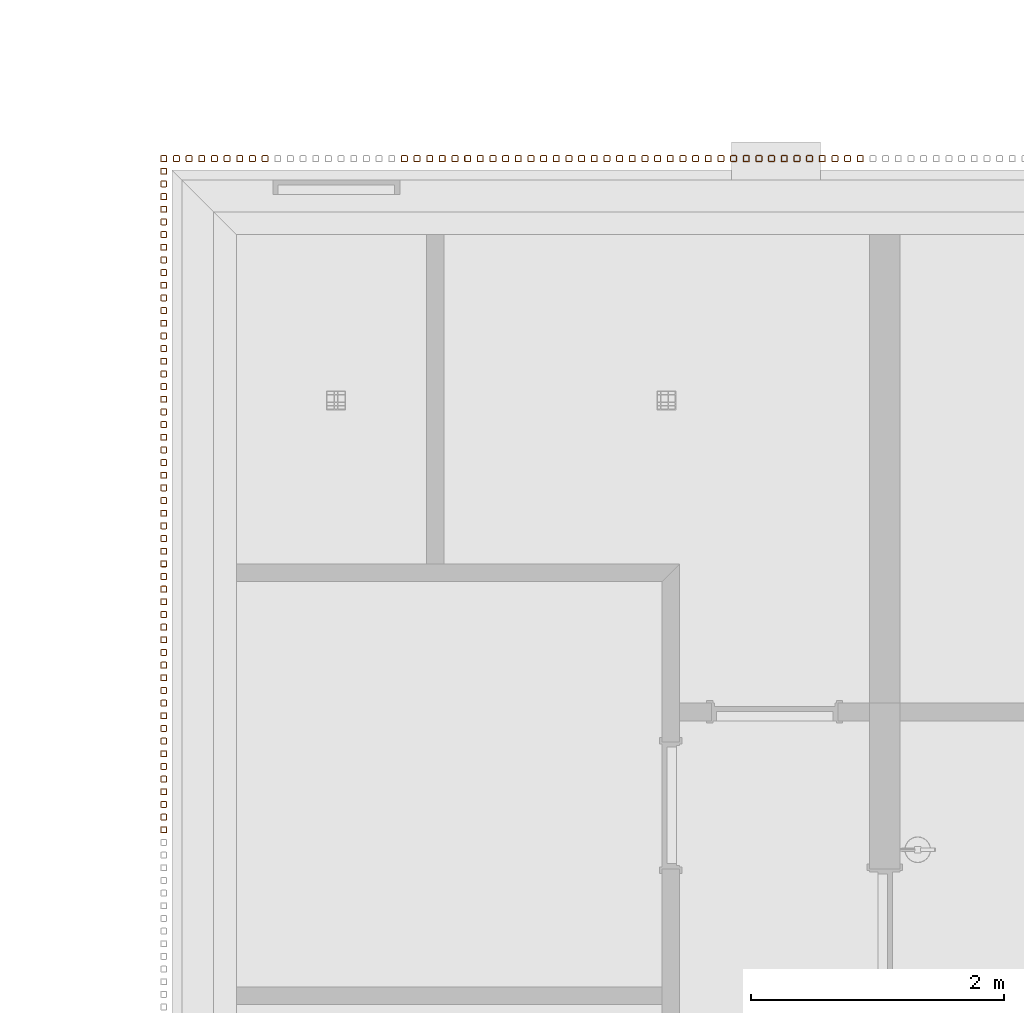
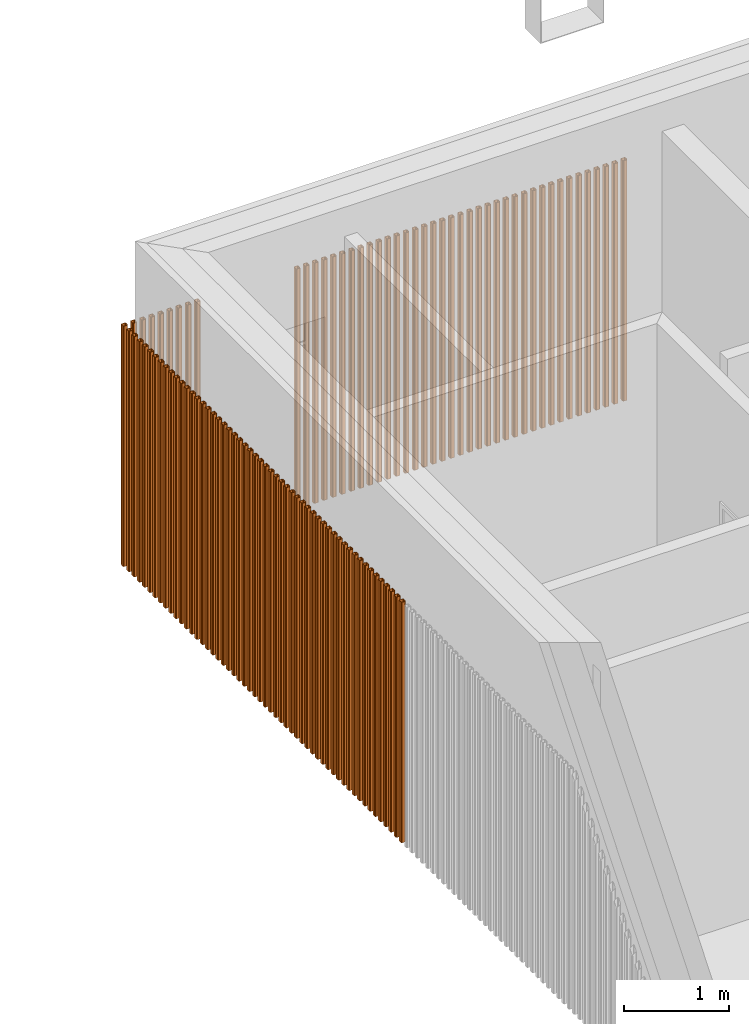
# One storey, part 81 of 112: 99 proxies.
"""IFC2X3 building model written with IfcOpenShell, lengths in millimetres."""

from ifc_helpers import new_model, entity, si_unit, converted_unit, derived_unit, money_unit, direction, frame, origin_with_axes, place, context, subcontext, project, spatial, faceted_brep, source, transform, mapped, material, type_object, element, save


model = new_model("IFC2X3")

# Units and contexts
model_context = context("Model", 3, precision=0.01, world=origin_with_axes(), true_north=direction((0.0, 1.0)))
body_context = subcontext(model_context, "Body", "Model", "MODEL_VIEW")
ifc_project = project(units=[si_unit("LENGTHUNIT", "METRE", prefix="MILLI"), si_unit("AREAUNIT", "SQUARE_METRE"), si_unit("VOLUMEUNIT", "CUBIC_METRE"), converted_unit("PLANEANGLEUNIT", "DEGREE", entity("IfcPlaneAngleMeasure", 0.0174532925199), si_unit("PLANEANGLEUNIT", "RADIAN"), dimensions=[0, 0, 0, 0, 0, 0, 0]), si_unit("SOLIDANGLEUNIT", "STERADIAN"), money_unit("EUR"), converted_unit("TIMEUNIT", "Year", entity("IfcTimeMeasure", 31556926.0), si_unit("TIMEUNIT", "SECOND"), dimensions=[0, 0, 1, 0, 0, 0, 0]), si_unit("MASSUNIT", "GRAM", prefix="KILO"), si_unit("THERMODYNAMICTEMPERATUREUNIT", "DEGREE_CELSIUS"), si_unit("LUMINOUSINTENSITYUNIT", "LUMEN"), si_unit("ENERGYUNIT", "JOULE", prefix="MEGA"), derived_unit("THERMALCONDUCTANCEUNIT", [(si_unit("POWERUNIT", "WATT"), 1), (si_unit("LENGTHUNIT", "METRE"), -1), (si_unit("THERMODYNAMICTEMPERATUREUNIT", "KELVIN"), -1)]), derived_unit("SPECIFICHEATCAPACITYUNIT", [(si_unit("ENERGYUNIT", "JOULE"), 1), (si_unit("MASSUNIT", "GRAM", prefix="KILO"), -1), (si_unit("THERMODYNAMICTEMPERATUREUNIT", "KELVIN"), -1)]), derived_unit("MASSDENSITYUNIT", [(si_unit("MASSUNIT", "GRAM", prefix="KILO"), 1), (si_unit("VOLUMEUNIT", "CUBIC_METRE"), -1)])], contexts=[model_context])

# Site, building, storey
site_placement = place(None, origin_with_axes())
site = spatial("IfcSite", under=ifc_project, at=site_placement, Name="Politse- ja Piirivalveameti ning Päästeameti ühishoone", CompositionType="ELEMENT")
building_placement = place(site_placement, origin_with_axes())
building = spatial("IfcBuilding", under=site, at=building_placement, Name="Politse- ja Piirivalveameti ning Päästeameti ühishoone", CompositionType="ELEMENT")
storey_placement = place(building_placement, origin_with_axes())
storey = spatial("IfcBuildingStorey", under=building, at=storey_placement, Name="Esimene korrus", CompositionType="ELEMENT", Elevation=0.0)

# Proxies
ifc_material = material(Name="ET-05_Teras")
building_element_proxy_type = type_object("IfcBuildingElementProxyType", Name="SHS Cold-Formed Column 23", PredefinedType="NOTDEFINED")
shared_shape = source(origin_with_axes(), body_context, "Body", "Brep", [
    faceted_brep([(17.0, -25.0, 0.0), (17.0, -25.0, 2800.0), (-17.0, -25.0, 2800.0), (-17.0, -25.0, 0.0), (22.6568542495, -22.6568542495, 0.0), (22.6568542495, -22.6568542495, 2800.0), (25.0, -17.0, 2800.0), (25.0, 17.0, 2800.0), (22.6568542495, 22.6568542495, 2800.0), (17.0, 25.0, 2800.0), (-17.0, 25.0, 2800.0), (-22.6568542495, 22.6568542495, 2800.0), (-25.0, 17.0, 2800.0), (-25.0, -17.0, 2800.0), (-22.6568542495, -22.6568542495, 2800.0), (17.0, -21.0, 2800.0), (-17.0, -21.0, 2800.0), (-19.8284271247, -19.8284271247, 2800.0), (-21.0, -17.0, 2800.0), (-21.0, 17.0, 2800.0), (-19.8284271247, 19.8284271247, 2800.0), (-17.0, 21.0, 2800.0), (17.0, 21.0, 2800.0), (19.8284271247, 19.8284271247, 2800.0), (21.0, 17.0, 2800.0), (21.0, -17.0, 2800.0), (19.8284271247, -19.8284271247, 2800.0), (-22.6568542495, -22.6568542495, 0.0), (-25.0, -17.0, 0.0), (-25.0, 17.0, 0.0), (-22.6568542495, 22.6568542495, 0.0), (-17.0, 25.0, 0.0), (17.0, 25.0, 0.0), (22.6568542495, 22.6568542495, 0.0), (25.0, 17.0, 0.0), (25.0, -17.0, 0.0), (17.0, -21.0, 0.0), (19.8284271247, -19.8284271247, 0.0), (21.0, -17.0, 0.0), (21.0, 17.0, 0.0), (19.8284271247, 19.8284271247, 0.0), (17.0, 21.0, 0.0), (-17.0, 21.0, 0.0), (-19.8284271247, 19.8284271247, 0.0), (-21.0, 17.0, 0.0), (-21.0, -17.0, 0.0), (-19.8284271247, -19.8284271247, 0.0), (-17.0, -21.0, 0.0)], [[[0, 1, 2, 3]], [[4, 5, 1, 0]], [[1, 5, 6, 7, 8, 9, 10, 11, 12, 13, 14, 2], [15, 16, 17, 18, 19, 20, 21, 22, 23, 24, 25, 26]], [[3, 2, 14, 27]], [[0, 3, 27, 28, 29, 30, 31, 32, 33, 34, 35, 4], [36, 37, 38, 39, 40, 41, 42, 43, 44, 45, 46, 47]], [[35, 6, 5, 4]], [[34, 7, 6, 35]], [[33, 8, 7, 34]], [[32, 9, 8, 33]], [[31, 10, 9, 32]], [[30, 11, 10, 31]], [[29, 12, 11, 30]], [[28, 13, 12, 29]], [[27, 14, 13, 28]], [[47, 16, 15, 36]], [[46, 17, 16, 47]], [[45, 18, 17, 46]], [[44, 19, 18, 45]], [[43, 20, 19, 44]], [[42, 21, 20, 43]], [[41, 22, 21, 42]], [[40, 23, 22, 41]], [[39, 24, 23, 40]], [[38, 25, 24, 39]], [[37, 26, 25, 38]], [[36, 15, 26, 37]]]),
])
for number, where, z_axis, x_axis in (
    (1, (59685.9088163, 38099.9520832, 0.0), (0.0, 0.0, 1.0), (0.0, -1.0, 0.0)),
    (2, (59785.9088163, 38099.9520832, 0.0), (0.0, 0.0, 1.0), (0.0, -1.0, 0.0)),
    (3, (59885.9088163, 38099.9520832, 0.0), (0.0, 0.0, 1.0), (0.0, -1.0, 0.0)),
    (4, (59985.9088163, 38099.9520832, 0.0), (0.0, 0.0, 1.0), (0.0, -1.0, 0.0)),
    (5, (60085.9088163, 38099.9520832, 0.0), (0.0, 0.0, 1.0), (0.0, -1.0, 0.0)),
    (6, (60185.9088163, 38099.9520832, 0.0), (0.0, 0.0, 1.0), (0.0, -1.0, 0.0)),
    (7, (60285.9088163, 38099.9520832, 0.0), (0.0, 0.0, 1.0), (0.0, -1.0, 0.0)),
    (8, (60385.9088163, 38099.9520832, 0.0), (0.0, 0.0, 1.0), (0.0, -1.0, 0.0)),
    (9, (61486.1115783, 38099.9520832, 0.0), (0.0, 0.0, 1.0), (0.0, -1.0, 0.0)),
    (10, (61586.1300112, 38099.9520832, 0.0), (0.0, 0.0, 1.0), (0.0, -1.0, 0.0)),
    (11, (61686.1484441, 38099.9520832, 0.0), (0.0, 0.0, 1.0), (0.0, -1.0, 0.0)),
    (12, (61786.166877, 38099.9520832, 0.0), (0.0, 0.0, 1.0), (0.0, -1.0, 0.0)),
    (13, (61886.1853099, 38099.9520832, 0.0), (0.0, 0.0, 1.0), (0.0, -1.0, 0.0)),
    (14, (61986.2037428, 38099.9520832, 0.0), (0.0, 0.0, 1.0), (0.0, -1.0, 0.0)),
    (15, (62086.2221757, 38099.9520832, 0.0), (0.0, 0.0, 1.0), (0.0, -1.0, 0.0)),
    (16, (62186.2406086, 38099.9520832, 0.0), (0.0, 0.0, 1.0), (0.0, -1.0, 0.0)),
    (17, (62286.2590415, 38099.9520832, 0.0), (0.0, 0.0, 1.0), (0.0, -1.0, 0.0)),
    (18, (62386.2774745, 38099.9520832, 0.0), (0.0, 0.0, 1.0), (0.0, -1.0, 0.0)),
    (19, (62486.2959074, 38099.9520832, 0.0), (0.0, 0.0, 1.0), (0.0, -1.0, 0.0)),
    (20, (62586.3143403, 38099.9520832, 0.0), (0.0, 0.0, 1.0), (0.0, -1.0, 0.0)),
    (21, (62686.3327732, 38099.9520832, 0.0), (0.0, 0.0, 1.0), (0.0, -1.0, 0.0)),
    (22, (62786.3512061, 38099.9520832, 0.0), (0.0, 0.0, 1.0), (0.0, -1.0, 0.0)),
    (23, (62886.369639, 38099.9520832, 0.0), (0.0, 0.0, 1.0), (0.0, -1.0, 0.0)),
    (24, (62986.3880719, 38099.9520832, 0.0), (0.0, 0.0, 1.0), (0.0, -1.0, 0.0)),
    (25, (63086.4065048, 38099.9520832, 0.0), (0.0, 0.0, 1.0), (0.0, -1.0, 0.0)),
    (26, (63186.4249377, 38099.9520832, 0.0), (0.0, 0.0, 1.0), (0.0, -1.0, 0.0)),
    (27, (63286.4433706, 38099.9520832, 0.0), (0.0, 0.0, 1.0), (0.0, -1.0, 0.0)),
    (28, (63386.4618035, 38099.9520832, 0.0), (0.0, 0.0, 1.0), (0.0, -1.0, 0.0)),
    (29, (63486.4802364, 38099.9520832, 0.0), (0.0, 0.0, 1.0), (0.0, -1.0, 0.0)),
    (30, (63586.4986693, 38099.9520832, 0.0), (0.0, 0.0, 1.0), (0.0, -1.0, 0.0)),
    (31, (63686.5171022, 38099.9520832, 0.0), (0.0, 0.0, 1.0), (0.0, -1.0, 0.0)),
    (32, (63786.5355351, 38099.9520832, 0.0), (0.0, 0.0, 1.0), (0.0, -1.0, 0.0)),
    (33, (63886.553968, 38099.9520832, 0.0), (0.0, 0.0, 1.0), (0.0, -1.0, 0.0)),
    (34, (63986.5724009, 38099.9520832, 0.0), (0.0, 0.0, 1.0), (0.0, -1.0, 0.0)),
    (35, (64086.5908339, 38099.9520832, 0.0), (0.0, 0.0, 1.0), (0.0, -1.0, 0.0)),
    (36, (64186.6092668, 38099.9520832, 0.0), (0.0, 0.0, 1.0), (0.0, -1.0, 0.0)),
    (37, (64286.6276997, 38099.9520832, 0.0), (0.0, 0.0, 1.0), (0.0, -1.0, 0.0)),
    (38, (64386.6461326, 38099.9520832, 0.0), (0.0, 0.0, 1.0), (0.0, -1.0, 0.0)),
    (39, (64486.6645655, 38099.9520832, 0.0), (0.0, 0.0, 1.0), (0.0, -1.0, 0.0)),
    (40, (64586.6829984, 38099.9520832, 0.0), (0.0, 0.0, 1.0), (0.0, -1.0, 0.0)),
    (41, (64686.7014313, 38099.9520832, 0.0), (0.0, 0.0, 1.0), (0.0, -1.0, 0.0)),
    (42, (64786.7198642, 38099.9520832, 0.0), (0.0, 0.0, 1.0), (0.0, -1.0, 0.0)),
    (43, (64886.7382971, 38099.9520832, 0.0), (0.0, 0.0, 1.0), (0.0, -1.0, 0.0)),
    (44, (64986.75673, 38099.9520832, 0.0), (0.0, 0.0, 1.0), (0.0, -1.0, 0.0)),
    (45, (65086.7751629, 38099.9520832, 0.0), (0.0, 0.0, 1.0), (0.0, -1.0, 0.0)),
    (46, (59585.9088163, 34799.9520832, 0.0), (0.0, 0.0, 1.0), (1.0, 0.0, 0.0)),
    (47, (59585.9088163, 38099.9520832, 0.0), (0.0, 0.0, 1.0), (1.0, 0.0, 0.0)),
    (48, (59585.9088163, 34999.9520832, 0.0), (0.0, 0.0, 1.0), (1.0, 0.0, 0.0)),
    (49, (59585.9088163, 35099.9520832, 0.0), (0.0, 0.0, 1.0), (1.0, 0.0, 0.0)),
    (50, (59585.9088163, 35199.9520832, 0.0), (0.0, 0.0, 1.0), (1.0, 0.0, 0.0)),
    (51, (59585.9088163, 35299.9520832, 0.0), (0.0, 0.0, 1.0), (1.0, 0.0, 0.0)),
    (52, (59585.9088163, 35399.9520832, 0.0), (0.0, 0.0, 1.0), (1.0, 0.0, 0.0)),
    (53, (59585.9088163, 35499.9520832, 0.0), (0.0, 0.0, 1.0), (1.0, 0.0, 0.0)),
    (54, (59585.9088163, 35599.9520832, 0.0), (0.0, 0.0, 1.0), (1.0, 0.0, 0.0)),
    (55, (59585.9088163, 35699.9520832, 0.0), (0.0, 0.0, 1.0), (1.0, 0.0, 0.0)),
    (56, (59585.9088163, 35799.9520832, 0.0), (0.0, 0.0, 1.0), (1.0, 0.0, 0.0)),
    (57, (59585.9088163, 35899.9520832, 0.0), (0.0, 0.0, 1.0), (1.0, 0.0, 0.0)),
    (58, (59585.9088163, 35999.9520832, 0.0), (0.0, 0.0, 1.0), (1.0, 0.0, 0.0)),
    (59, (59585.9088163, 36099.9520832, 0.0), (0.0, 0.0, 1.0), (1.0, 0.0, 0.0)),
    (60, (59585.9088163, 36199.9520832, 0.0), (0.0, 0.0, 1.0), (1.0, 0.0, 0.0)),
    (61, (59585.9088163, 36299.9520832, 0.0), (0.0, 0.0, 1.0), (1.0, 0.0, 0.0)),
    (62, (59585.9088163, 36399.9520832, 0.0), (0.0, 0.0, 1.0), (1.0, 0.0, 0.0)),
    (63, (59585.9088163, 36499.9520832, 0.0), (0.0, 0.0, 1.0), (1.0, 0.0, 0.0)),
    (64, (59585.9088163, 36599.9520832, 0.0), (0.0, 0.0, 1.0), (1.0, 0.0, 0.0)),
    (65, (59585.9088163, 36699.9520832, 0.0), (0.0, 0.0, 1.0), (1.0, 0.0, 0.0)),
    (66, (59585.9088163, 36799.9520832, 0.0), (0.0, 0.0, 1.0), (1.0, 0.0, 0.0)),
    (67, (59585.9088163, 36899.9520832, 0.0), (0.0, 0.0, 1.0), (1.0, 0.0, 0.0)),
    (68, (59585.9088163, 36999.9520832, 0.0), (0.0, 0.0, 1.0), (1.0, 0.0, 0.0)),
    (69, (59585.9088163, 37099.9520832, 0.0), (0.0, 0.0, 1.0), (1.0, 0.0, 0.0)),
    (70, (59585.9088163, 37199.9520832, 0.0), (0.0, 0.0, 1.0), (1.0, 0.0, 0.0)),
    (71, (59585.9088163, 37299.9520832, 0.0), (0.0, 0.0, 1.0), (1.0, 0.0, 0.0)),
    (72, (59585.9088163, 37399.9520832, 0.0), (0.0, 0.0, 1.0), (1.0, 0.0, 0.0)),
    (73, (59585.9088163, 37499.9520832, 0.0), (0.0, 0.0, 1.0), (1.0, 0.0, 0.0)),
    (74, (59585.9088163, 37599.9520832, 0.0), (0.0, 0.0, 1.0), (1.0, 0.0, 0.0)),
    (75, (59585.9088163, 37699.9520832, 0.0), (0.0, 0.0, 1.0), (1.0, 0.0, 0.0)),
    (76, (59585.9088163, 37799.9520832, 0.0), (0.0, 0.0, 1.0), (1.0, 0.0, 0.0)),
    (77, (59585.9088163, 37899.9520832, 0.0), (0.0, 0.0, 1.0), (1.0, 0.0, 0.0)),
    (78, (59585.9088163, 37999.9520832, 0.0), (0.0, 0.0, 1.0), (1.0, 0.0, 0.0)),
    (79, (59585.9088163, 34899.9520832, 0.0), (0.0, 0.0, 1.0), (1.0, 0.0, 0.0)),
    (80, (59585.9088163, 34699.9520832, 0.0), (0.0, 0.0, 1.0), (1.0, 0.0, 0.0)),
    (81, (59585.9088163, 34599.9520832, 0.0), (0.0, 0.0, 1.0), (1.0, 0.0, 0.0)),
    (82, (59585.9088163, 34499.9520832, 0.0), (0.0, 0.0, 1.0), (1.0, 0.0, 0.0)),
    (83, (59585.9088163, 34399.9520832, 0.0), (0.0, 0.0, 1.0), (1.0, 0.0, 0.0)),
    (84, (59585.9088163, 34299.9520832, 0.0), (0.0, 0.0, 1.0), (1.0, 0.0, 0.0)),
    (85, (59585.9088163, 34199.9520832, 0.0), (0.0, 0.0, 1.0), (1.0, 0.0, 0.0)),
    (86, (59585.9088163, 34099.9520832, 0.0), (0.0, 0.0, 1.0), (1.0, 0.0, 0.0)),
    (87, (59585.9088163, 33999.9520832, 0.0), (0.0, 0.0, 1.0), (1.0, 0.0, 0.0)),
    (88, (59585.9088163, 33899.9520832, 0.0), (0.0, 0.0, 1.0), (1.0, 0.0, 0.0)),
    (89, (59585.9088163, 33799.9520832, 0.0), (0.0, 0.0, 1.0), (1.0, 0.0, 0.0)),
    (90, (59585.9088163, 33699.9520832, 0.0), (0.0, 0.0, 1.0), (1.0, 0.0, 0.0)),
    (91, (59585.9088163, 33599.9520832, 0.0), (0.0, 0.0, 1.0), (1.0, 0.0, 0.0)),
    (92, (59585.9088163, 33499.9520832, 0.0), (0.0, 0.0, 1.0), (1.0, 0.0, 0.0)),
    (93, (59585.9088163, 33399.9520832, 0.0), (0.0, 0.0, 1.0), (1.0, 0.0, 0.0)),
    (94, (59585.9088163, 33299.9520832, 0.0), (0.0, 0.0, 1.0), (1.0, 0.0, 0.0)),
    (95, (59585.9088163, 33199.9520832, 0.0), (0.0, 0.0, 1.0), (1.0, 0.0, 0.0)),
    (96, (59585.9088163, 33099.9520832, 0.0), (0.0, 0.0, 1.0), (1.0, 0.0, 0.0)),
    (97, (59585.9088163, 32999.9520832, 0.0), (0.0, 0.0, 1.0), (1.0, 0.0, 0.0)),
    (98, (59585.9088163, 32899.9520832, 0.0), (0.0, 0.0, 1.0), (1.0, 0.0, 0.0)),
    (99, (59585.9088163, 32799.9520832, 0.0), (0.0, 0.0, 1.0), (1.0, 0.0, 0.0)),
):
    element("IfcBuildingElementProxy", number, at=place(storey_placement, frame(where, z_axis=z_axis, x_axis=x_axis)), inside=storey, type_object=building_element_proxy_type, material=ifc_material, Name="Fassaadiribid", context=body_context, shape_type="MappedRepresentation", body=[
        mapped(shared_shape, transform((0.0, 0.0, 0.0))),
    ])

save(model, "model.ifc")
